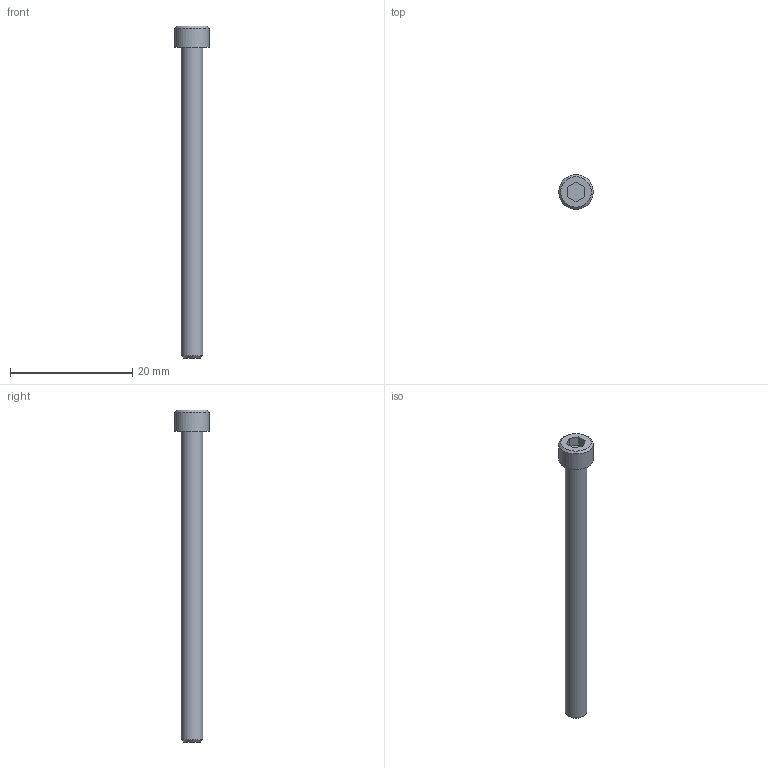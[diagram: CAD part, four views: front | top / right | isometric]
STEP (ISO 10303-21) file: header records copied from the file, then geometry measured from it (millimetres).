
FILE_DESCRIPTION((''),'2;1');
FILE_NAME('C:\Users\Stan\Desktop\import\SHCS 6-32 UNCx2.ipt.step','2011-08-18T17:44:53',(''),(''),'Autodesk Inventor 2012','Autodesk Inventor 2012','');
FILE_SCHEMA(('AUTOMOTIVE_DESIGN { 1 0 10303 214 1 1 1 1 }'));
Length unit declared in the file: inch
Products named in the file (1): SHCS 6-32 UNCx2
Bounding box: 5.64 x 5.64 x 54.25 mm (x, y, z)
Volume: 564.2 mm3; surface area: 680.3 mm2
Topology: 1 solids, 1 shells, 14 faces, 28 edges, 18 vertices
Faces by surface type: plane 10, cone 2, cylinder 2
Full cylindrical faces by diameter (mm): 3.505 x1, 5.639 x1
Entity records: 391 total; most frequent: DIRECTION 60, CARTESIAN_POINT 57, ORIENTED_EDGE 48, EDGE_CURVE 24, AXIS2_PLACEMENT_3D 21, EDGE_LOOP 20, VERTEX_POINT 18, VECTOR 18
